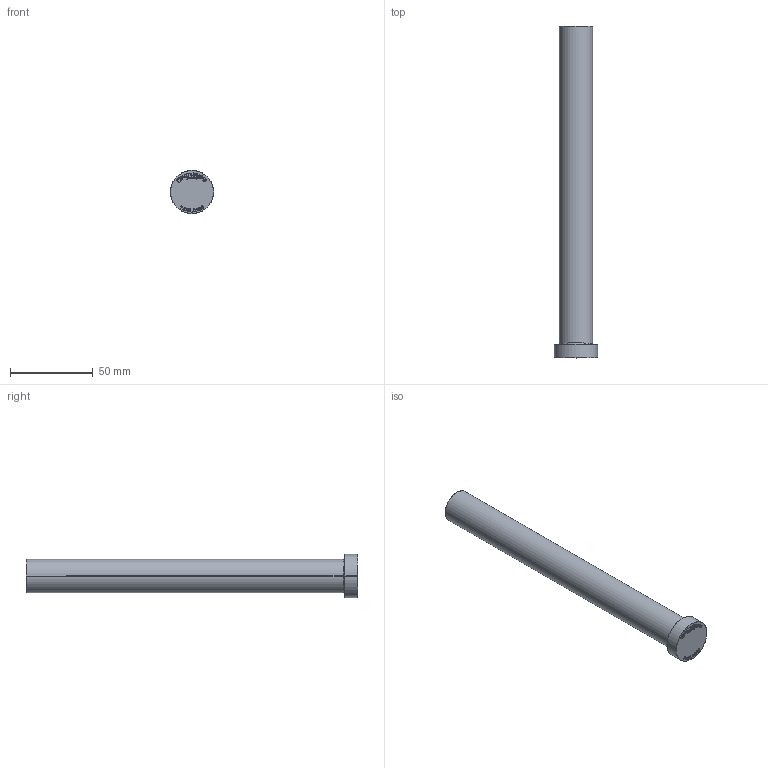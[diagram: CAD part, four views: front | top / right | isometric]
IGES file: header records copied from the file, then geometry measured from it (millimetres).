
Start section: SolidWorks IGES file using analytic representation for surfaces
Global section: file name: C:\Users\User\Downloads\Matripeça 31-08 tar\PB - PINO EXTRATOR TIPO _B_ (CATÁLOGO)\PB20,0\PB20,0200.IGS; native system: SolidWorks 2024; preprocessor: SolidWorks 2024; author: User; date: 260901.155539; units: millimetre
Bounding box: 26 x 200 x 26 mm (x, y, z)
Surface area: 13773.4 mm2 (no closed solid volume)
Topology: 0 solids, 0 shells, 400 faces, 4527 edges, 4527 vertices
Faces by surface type: bspline 386, revolution 14
